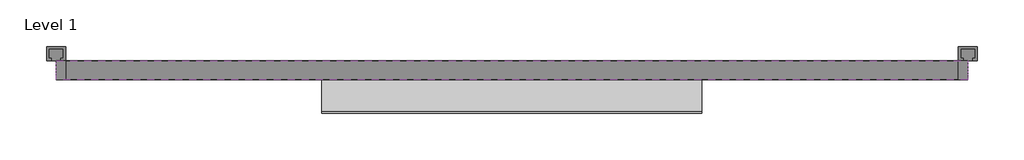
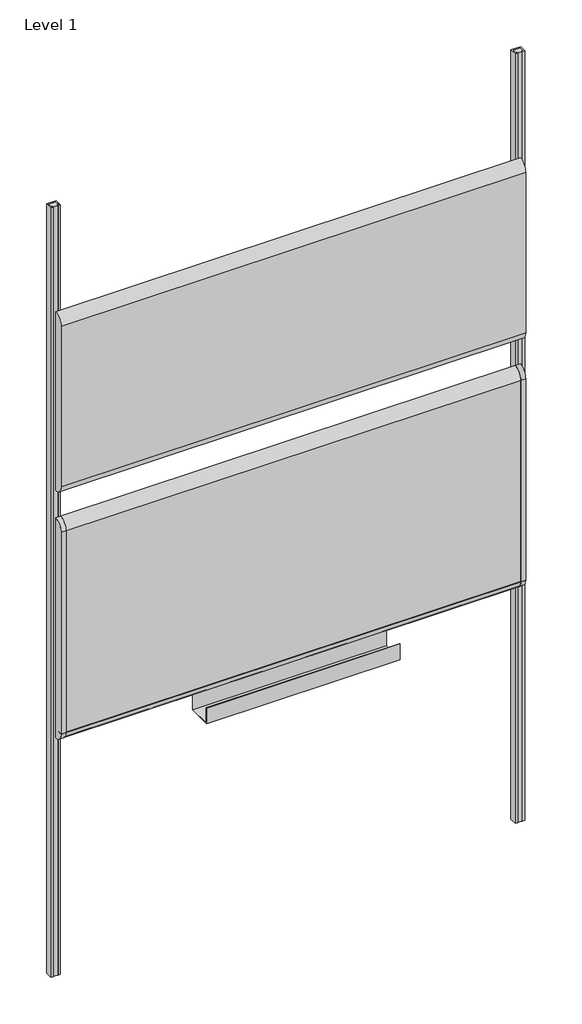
# One storey: 4 furniture elements.
"""IFC4 building model written with IfcOpenShell, lengths in millimetres."""

from ifc_helpers import new_model, si_unit, origin, place, context, project, spatial, transform, mapped, element, save
from components import furniture_ee16526f, furniture_83360586, furniture_ea425779

model = new_model("IFC4")

# Units and contexts
model_context = context("Model", 3, world=origin())
ifc_project = project(units=[si_unit("LENGTHUNIT", "METRE", prefix="MILLI")], contexts=[model_context])

# Site, building, storey
site = spatial("IfcSite", under=ifc_project)
building = spatial("IfcBuilding", under=site)
storey = spatial("IfcBuildingStorey", under=building, Name="Level 1", Elevation=0.0)

# Furniture
placement = place(None, origin())
furniture_shape = furniture_ee16526f(model_context)
element("IfcFurniture", 1, ObjectType="HermanMiller_ActionOffice_A3510_B-StyleMarkerBoard : 24\"H x 48\"W", at=placement, inside=storey, context=model_context, shape_type="MappedRepresentation", body=[
    mapped(furniture_shape, transform((609.6, -31.75, 0.0), x_axis=(1.0, 0.0, 0.0), y_axis=(0.0, 1.0, 0.0), z_axis=(0.0, 0.0, 1.0))),
])
furniture_2_shape = furniture_83360586(model_context)
element("IfcFurniture", 2, ObjectType="HermanMiller_ActionOffice_A3410_B-StyleTackboard : 20\"H x 48\"W", at=placement, inside=storey, context=model_context, shape_type="MappedRepresentation", body=[
    mapped(furniture_2_shape, transform((609.6, -31.75, 0.0), x_axis=(1.0, 0.0, 0.0), y_axis=(0.0, 1.0, 0.0), z_axis=(0.0, 0.0, 1.0))),
])
furniture_3_shape = furniture_ea425779(model_context)
element("IfcFurniture", 3, ObjectType="HermanMiller_ActionOffice_AO213_WallStrip : 84\"H", at=placement, inside=storey, context=model_context, shape_type="MappedRepresentation", body=[
    mapped(furniture_3_shape, transform((1219.2, 0.0, 0.0), x_axis=(1.0, 0.0, 0.0), y_axis=(0.0, 1.0, 0.0), z_axis=(0.0, 0.0, 1.0))),
])
element("IfcFurniture", 4, ObjectType="HermanMiller_ActionOffice_AO213_WallStrip : 84\"H", at=placement, inside=storey, context=model_context, shape_type="MappedRepresentation", body=[
    mapped(furniture_3_shape, transform((0.0, 0.0, 0.0), x_axis=(1.0, 0.0, 0.0), y_axis=(0.0, 1.0, 0.0), z_axis=(0.0, 0.0, 1.0))),
])

save(model, "model.ifc")
